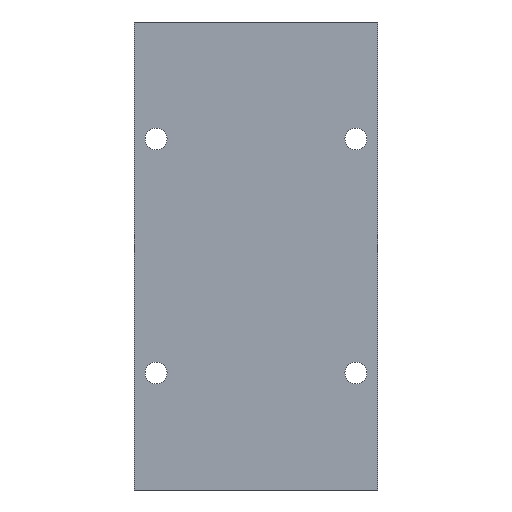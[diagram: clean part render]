
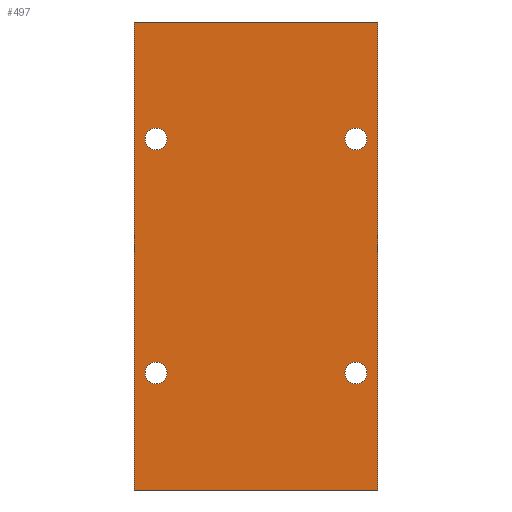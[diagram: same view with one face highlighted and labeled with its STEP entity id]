
A CAD part, front view. The second image highlights one B-rep face of the part: STEP entity #497.
In plain terms, the highlighted planar face has unit normal (0, -1, 0).
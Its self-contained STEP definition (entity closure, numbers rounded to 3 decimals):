
#3 = VERTEX_POINT ( 'NONE', #27 ) ;
#7 = DIRECTION ( 'NONE',  ( 0., 1., 0. ) ) ;
#10 = ORIENTED_EDGE ( 'NONE', *, *, #547, .T. ) ;
#16 = EDGE_LOOP ( 'NONE', ( #450, #264 ) ) ;
#21 = EDGE_CURVE ( 'NONE', #222, #100, #550, .T. ) ;
#24 = DIRECTION ( 'NONE',  ( 0., 1., 0. ) ) ;
#27 = CARTESIAN_POINT ( 'NONE',  ( -25., -3., 96. ) ) ;
#29 = EDGE_LOOP ( 'NONE', ( #560, #159, #541, #383 ) ) ;
#33 = VECTOR ( 'NONE', #60, 1000. ) ;
#43 = VERTEX_POINT ( 'NONE', #599 ) ;
#51 = AXIS2_PLACEMENT_3D ( 'NONE', #131, #499, #548 ) ;
#53 = CARTESIAN_POINT ( 'NONE',  ( 20.5, -3., 24. ) ) ;
#57 = DIRECTION ( 'NONE',  ( 0., 1., 0. ) ) ;
#60 = DIRECTION ( 'NONE',  ( 1., 0., 0. ) ) ;
#61 = CARTESIAN_POINT ( 'NONE',  ( 25., -3., 0. ) ) ;
#62 = DIRECTION ( 'NONE',  ( 0., 0., 1. ) ) ;
#68 = CARTESIAN_POINT ( 'NONE',  ( 20.5, -3., 74.25 ) ) ;
#75 = ORIENTED_EDGE ( 'NONE', *, *, #287, .T. ) ;
#77 = DIRECTION ( 'NONE',  ( 0., 1., 0. ) ) ;
#79 = CIRCLE ( 'NONE', #260, 2.25 ) ;
#83 = VERTEX_POINT ( 'NONE', #68 ) ;
#87 = DIRECTION ( 'NONE',  ( -1., 0., 0. ) ) ;
#88 = CARTESIAN_POINT ( 'NONE',  ( -20.5, -3., 21.75 ) ) ;
#90 = EDGE_CURVE ( 'NONE', #3, #43, #274, .T. ) ;
#98 = DIRECTION ( 'NONE',  ( 0., 0., 1. ) ) ;
#100 = VERTEX_POINT ( 'NONE', #88 ) ;
#101 = DIRECTION ( 'NONE',  ( 0., 0., 1. ) ) ;
#114 = CIRCLE ( 'NONE', #583, 2.25 ) ;
#124 = CIRCLE ( 'NONE', #333, 2.25 ) ;
#131 = CARTESIAN_POINT ( 'NONE',  ( -20.5, -3., 24. ) ) ;
#144 = VERTEX_POINT ( 'NONE', #355 ) ;
#158 = DIRECTION ( 'NONE',  ( 1., 0., 0. ) ) ;
#159 = ORIENTED_EDGE ( 'NONE', *, *, #335, .F. ) ;
#161 = VERTEX_POINT ( 'NONE', #514 ) ;
#187 = CARTESIAN_POINT ( 'NONE',  ( 25., -3., 96. ) ) ;
#191 = VERTEX_POINT ( 'NONE', #457 ) ;
#200 = EDGE_LOOP ( 'NONE', ( #257, #331 ) ) ;
#202 = DIRECTION ( 'NONE',  ( 0., 1., 0. ) ) ;
#203 = CARTESIAN_POINT ( 'NONE',  ( 25., -3., 0. ) ) ;
#205 = EDGE_LOOP ( 'NONE', ( #585, #10 ) ) ;
#208 = CARTESIAN_POINT ( 'NONE',  ( -20.5, -3., 72. ) ) ;
#216 = CIRCLE ( 'NONE', #409, 2.25 ) ;
#222 = VERTEX_POINT ( 'NONE', #567 ) ;
#229 = FACE_BOUND ( 'NONE', #200, .T. ) ;
#231 = CIRCLE ( 'NONE', #338, 2.25 ) ;
#237 = VECTOR ( 'NONE', #581, 1000. ) ;
#241 = DIRECTION ( 'NONE',  ( 0., 1., 0. ) ) ;
#246 = EDGE_CURVE ( 'NONE', #43, #466, #609, .T. ) ;
#247 = VERTEX_POINT ( 'NONE', #437 ) ;
#257 = ORIENTED_EDGE ( 'NONE', *, *, #21, .T. ) ;
#260 = AXIS2_PLACEMENT_3D ( 'NONE', #453, #77, #312 ) ;
#264 = ORIENTED_EDGE ( 'NONE', *, *, #415, .T. ) ;
#266 = FACE_BOUND ( 'NONE', #205, .T. ) ;
#267 = DIRECTION ( 'NONE',  ( 0., 1., 0. ) ) ;
#274 = LINE ( 'NONE', #344, #529 ) ;
#279 = EDGE_CURVE ( 'NONE', #144, #247, #231, .T. ) ;
#287 = EDGE_CURVE ( 'NONE', #247, #144, #124, .T. ) ;
#289 = CIRCLE ( 'NONE', #372, 2.25 ) ;
#306 = EDGE_CURVE ( 'NONE', #83, #191, #289, .T. ) ;
#312 = DIRECTION ( 'NONE',  ( 0., 0., 1. ) ) ;
#318 = EDGE_CURVE ( 'NONE', #3, #579, #384, .T. ) ;
#324 = CARTESIAN_POINT ( 'NONE',  ( 25., -3., 96. ) ) ;
#328 = FACE_OUTER_BOUND ( 'NONE', #29, .T. ) ;
#331 = ORIENTED_EDGE ( 'NONE', *, *, #475, .T. ) ;
#332 = DIRECTION ( 'NONE',  ( 0., 0., 1. ) ) ;
#333 = AXIS2_PLACEMENT_3D ( 'NONE', #382, #484, #380 ) ;
#335 = EDGE_CURVE ( 'NONE', #579, #466, #502, .T. ) ;
#338 = AXIS2_PLACEMENT_3D ( 'NONE', #53, #7, #98 ) ;
#341 = CARTESIAN_POINT ( 'NONE',  ( -20.5, -3., 69.75 ) ) ;
#344 = CARTESIAN_POINT ( 'NONE',  ( -25., -3., 96. ) ) ;
#347 = PLANE ( 'NONE',  #515 ) ;
#355 = CARTESIAN_POINT ( 'NONE',  ( 20.5, -3., 26.25 ) ) ;
#367 = VERTEX_POINT ( 'NONE', #341 ) ;
#372 = AXIS2_PLACEMENT_3D ( 'NONE', #530, #57, #101 ) ;
#377 = ORIENTED_EDGE ( 'NONE', *, *, #279, .T. ) ;
#380 = DIRECTION ( 'NONE',  ( 0., 0., 1. ) ) ;
#382 = CARTESIAN_POINT ( 'NONE',  ( 20.5, -3., 24. ) ) ;
#383 = ORIENTED_EDGE ( 'NONE', *, *, #90, .T. ) ;
#384 = LINE ( 'NONE', #385, #493 ) ;
#385 = CARTESIAN_POINT ( 'NONE',  ( 25., -3., 96. ) ) ;
#397 = CARTESIAN_POINT ( 'NONE',  ( -20.5, -3., 72. ) ) ;
#399 = EDGE_CURVE ( 'NONE', #161, #367, #114, .T. ) ;
#401 = DIRECTION ( 'NONE',  ( 0., 0., 1. ) ) ;
#403 = CARTESIAN_POINT ( 'NONE',  ( -20.5, -3., 24. ) ) ;
#409 = AXIS2_PLACEMENT_3D ( 'NONE', #397, #202, #62 ) ;
#415 = EDGE_CURVE ( 'NONE', #367, #161, #216, .T. ) ;
#434 = AXIS2_PLACEMENT_3D ( 'NONE', #403, #24, #401 ) ;
#437 = CARTESIAN_POINT ( 'NONE',  ( 20.5, -3., 21.75 ) ) ;
#450 = ORIENTED_EDGE ( 'NONE', *, *, #399, .T. ) ;
#453 = CARTESIAN_POINT ( 'NONE',  ( 20.5, -3., 72. ) ) ;
#457 = CARTESIAN_POINT ( 'NONE',  ( 20.5, -3., 69.75 ) ) ;
#466 = VERTEX_POINT ( 'NONE', #203 ) ;
#475 = EDGE_CURVE ( 'NONE', #100, #222, #608, .T. ) ;
#477 = EDGE_LOOP ( 'NONE', ( #377, #75 ) ) ;
#484 = DIRECTION ( 'NONE',  ( 0., 1., 0. ) ) ;
#493 = VECTOR ( 'NONE', #158, 1000. ) ;
#497 = ADVANCED_FACE ( 'NONE', ( #505, #266, #229, #524, #328 ), #347, .F. ) ;
#499 = DIRECTION ( 'NONE',  ( 0., 1., 0. ) ) ;
#502 = LINE ( 'NONE', #324, #237 ) ;
#505 = FACE_BOUND ( 'NONE', #16, .T. ) ;
#514 = CARTESIAN_POINT ( 'NONE',  ( -20.5, -3., 74.25 ) ) ;
#515 = AXIS2_PLACEMENT_3D ( 'NONE', #187, #267, #87 ) ;
#524 = FACE_BOUND ( 'NONE', #477, .T. ) ;
#529 = VECTOR ( 'NONE', #561, 1000. ) ;
#530 = CARTESIAN_POINT ( 'NONE',  ( 20.5, -3., 72. ) ) ;
#541 = ORIENTED_EDGE ( 'NONE', *, *, #318, .F. ) ;
#547 = EDGE_CURVE ( 'NONE', #191, #83, #79, .T. ) ;
#548 = DIRECTION ( 'NONE',  ( 0., 0., 1. ) ) ;
#550 = CIRCLE ( 'NONE', #434, 2.25 ) ;
#560 = ORIENTED_EDGE ( 'NONE', *, *, #246, .T. ) ;
#561 = DIRECTION ( 'NONE',  ( 0., 0., -1. ) ) ;
#567 = CARTESIAN_POINT ( 'NONE',  ( -20.5, -3., 26.25 ) ) ;
#579 = VERTEX_POINT ( 'NONE', #613 ) ;
#581 = DIRECTION ( 'NONE',  ( 0., 0., -1. ) ) ;
#583 = AXIS2_PLACEMENT_3D ( 'NONE', #208, #241, #332 ) ;
#585 = ORIENTED_EDGE ( 'NONE', *, *, #306, .T. ) ;
#599 = CARTESIAN_POINT ( 'NONE',  ( -25., -3., 0. ) ) ;
#608 = CIRCLE ( 'NONE', #51, 2.25 ) ;
#609 = LINE ( 'NONE', #61, #33 ) ;
#613 = CARTESIAN_POINT ( 'NONE',  ( 25., -3., 96. ) ) ;
